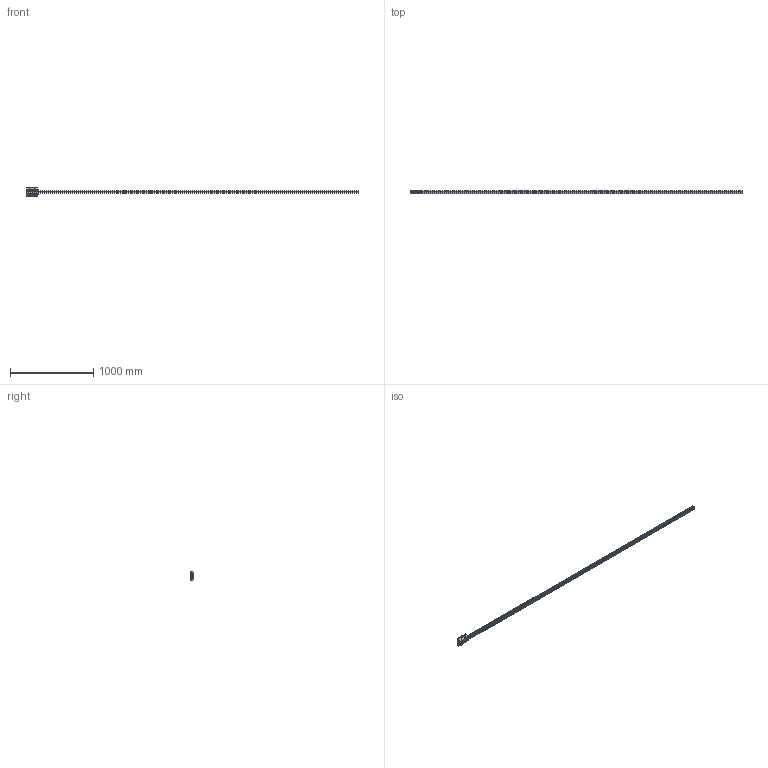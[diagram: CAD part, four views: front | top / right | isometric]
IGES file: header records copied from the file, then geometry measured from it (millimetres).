
Start section: Data from Parasolid IGES Translator 25.0.145, Copyright(c) 2006 Siemens PLM Software. All Rights Reserved.
Global section: file name: FDG35 84364LN_4000-0.igs; native system: By Siemens PLM Incorporated; preprocessor: XPlus GENERIC/IGES 25.0.145; author: Noname; organization: Noname; date: 20220622.045500; units: millimetre
Bounding box: 4000 x 48 x 100 mm (x, y, z)
Surface area: 736236.2 mm2 (no closed solid volume)
Topology: 0 solids, 0 shells, 691 faces, 3576 edges, 3322 vertices
Faces by surface type: extrusion 372, revolution 319
